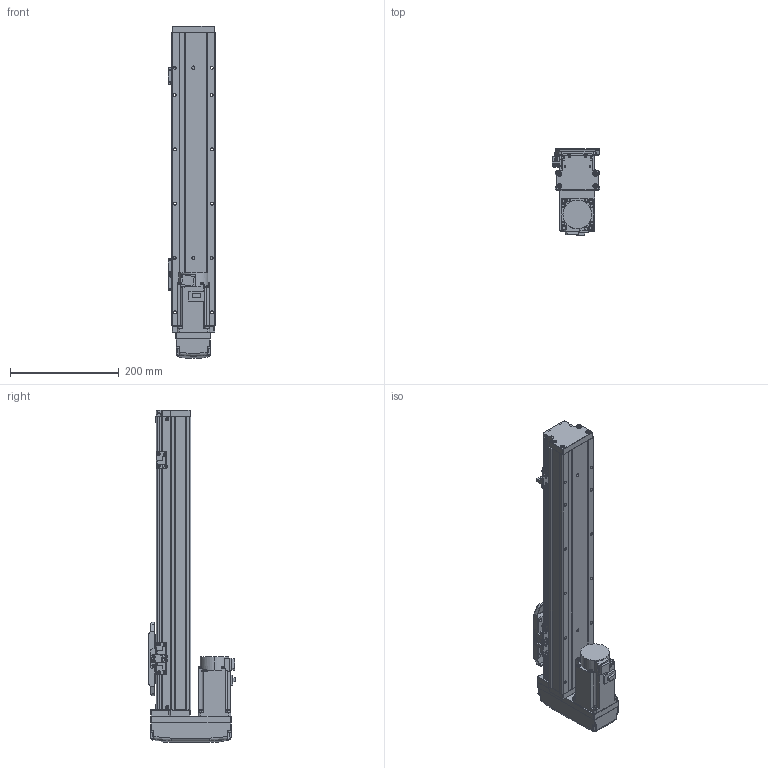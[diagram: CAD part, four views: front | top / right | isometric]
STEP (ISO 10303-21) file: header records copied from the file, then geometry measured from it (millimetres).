
FILE_DESCRIPTION (( 'STEP AP203' ), '1' );
FILE_NAME ('GTH8-350-BM-M20-C4.step', '2022-09-23T01:04:57', ( '微软用户' ), ( '微软中国' ), 'SwSTEP 2.0', 'SolidWorks 2020', '' );
FILE_SCHEMA (( 'CONFIG_CONTROL_DESIGN' ));
Length unit declared in the file: millimetre
Products named in the file (18): GBT 70.3-M3℅6; GBT96.1-2002 3×0.8; GTH80-022; BTH-M3X5X6; GTH80-001_350; GBT 70.1-M3℅6; hg-kn43j_-s100_; GTH80-003; GBT 70.1-M4×16; CTHA86-015-1_CTHA86-015-2; GTH80-004; GTH80-028; CTHA86-033_M40B; GTH80-006; GTH50-024; GTH8-350-BM-M20-C4; GTH80-013; GTH50-023
Assembly tree (57 placements, depth 2):
  GTH8-350-BM-M20-C4
    GTH80-001_350
    GTH80-003
    GTH80-004
    GTH80-006
    GTH80-013
    GBT 70.3-M3℅6  x4
    GTH80-022
    GBT 70.1-M3℅6  x14
    GBT 70.1-M4×16  x8
    GTH80-028  x2
    GTH50-024  x3
    GTH50-023  x3
    GBT96.1-2002 3×0.8  x6
    BTH-M3X5X6  x8
    hg-kn43j_-s100_
    CTHA86-015-1_CTHA86-015-2
    CTHA86-033_M40B
Bounding box: 86.9 x 160.3 x 611 mm (x, y, z)
Volume: 3328779.9 mm3; surface area: 379891.1 mm2
Topology: 59 solids, 59 shells, 2232 faces, 5151 edges, 3155 vertices
Faces by surface type: plane 1187, cylinder 603, cone 260, torus 166, bspline 8, sphere 8
Entity records: 40626 total; most frequent: CARTESIAN_POINT 7145, DIRECTION 6593, ORIENTED_EDGE 6120, EDGE_CURVE 3060, AXIS2_PLACEMENT_3D 2301, VECTOR 1991, LINE 1991, VERTEX_POINT 1930
